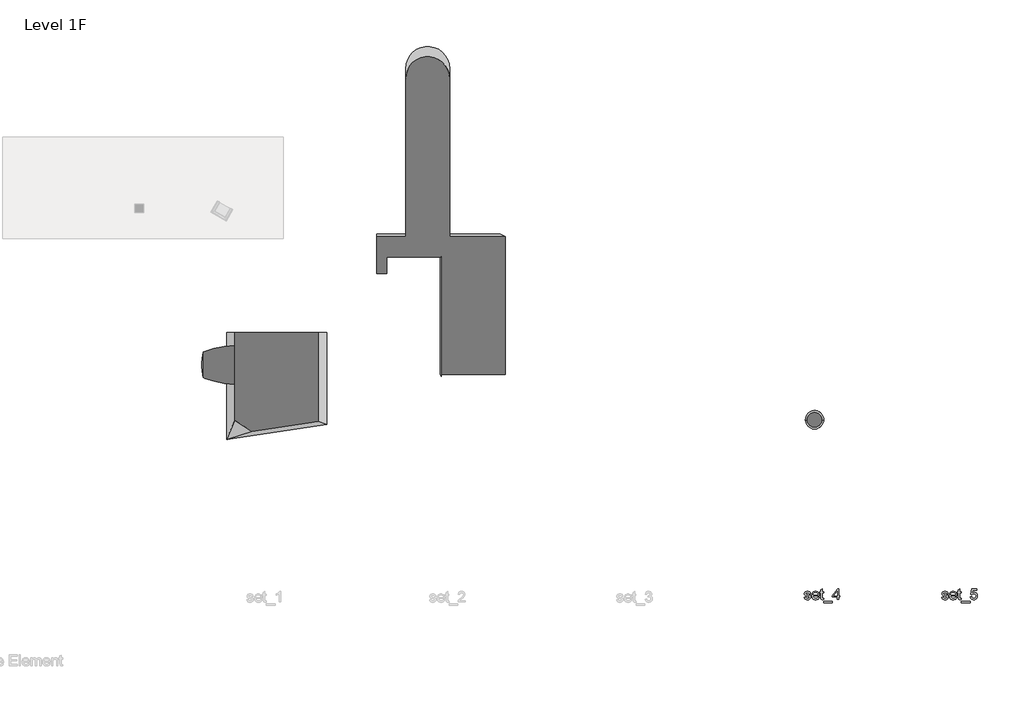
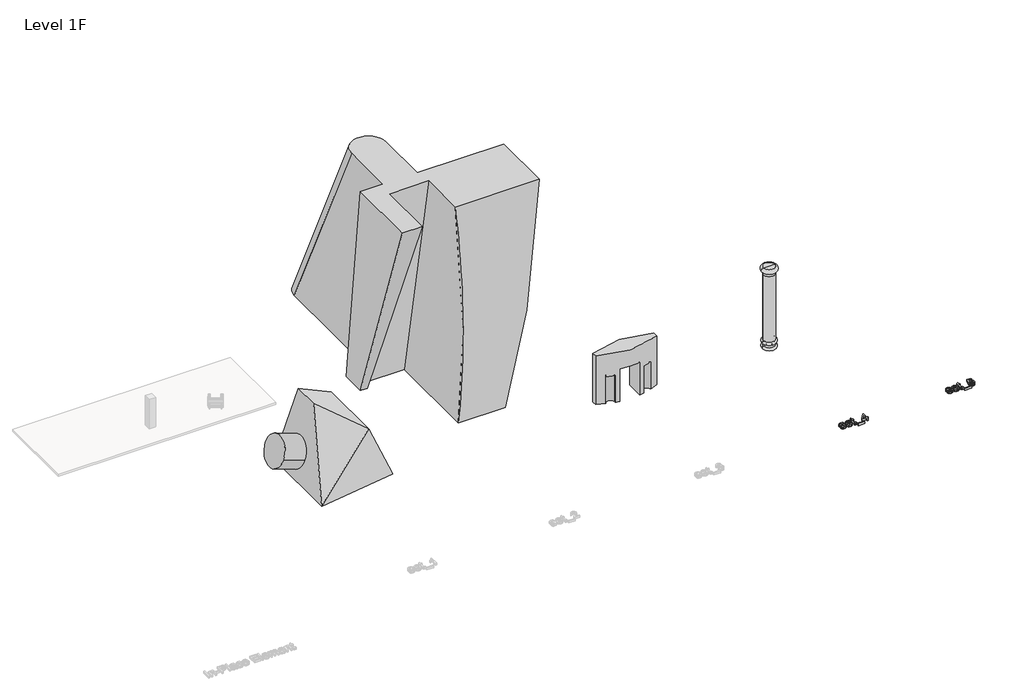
# One storey, part 2 of 2: 6 proxies.
"""IFC4 building model written with IfcOpenShell, lengths in millimetres."""

from ifc_helpers import new_model, si_unit, point, frame, origin, origin_2d, place, context, project, spatial, polyline, circle_curve, ellipse_curve, trimmed, segment, composite_curve, outline, extrude, faceted_brep, element, save
from ifc_brep_helpers import plane_surface, cylinder_surface, revolved_surface, extruded_surface, spline_curve, spline_surface, advanced_brep

model = new_model("IFC4")

# Units and contexts
model_context = context("Model", 3, world=origin())
ifc_project = project(units=[si_unit("LENGTHUNIT", "METRE", prefix="MILLI")], contexts=[model_context])

# Site, building, storey
site = spatial("IfcSite", under=ifc_project)
building = spatial("IfcBuilding", under=site)
storey = spatial("IfcBuildingStorey", under=building, Name="Level 1F", Elevation=100.0)

# Proxies
placement = place(None, origin())
element("IfcBuildingElementProxy", 1, Name="mass_set_2_pushpull : mass_set_2_pushpull", ObjectType="mass_set_2_pushpull : mass_set_2_pushpull", at=placement, inside=storey, context=model_context, shape_type="AdvancedBrep", body=[
    advanced_brep(
    [(12843.2101722, -14183.4497816, 100.0), (13313.1126887, -14183.4497816, 100.0), (14226.3350632, -19295.4431474, 14923.0492448), (12843.2101722, -19295.4431474, 14923.0492448), (13313.1126887, -13559.3715019, 100.0), (14226.3350632, -15283.4497816, 14923.0492448), (16303.091989, -13559.3715019, 100.0), (17026.3350632, -15283.4497816, 14923.0492448), (16303.091989, -20129.4660723, 100.0), (17026.3350632, -18498.151914, 14923.0492448), (19598.154389, -20129.4660723, 100.0), (22935.0564238, -18498.151914, 14923.0492448), (19598.154389, -12459.3715019, 100.0), (22935.0564238, -14183.4497816, 14923.0492448), (16826.3350632, -12459.3715019, 100.0), (16826.3350632, -14183.4497816, 14923.0492448), (16826.3350632, -3398.8954168, 100.0), (16826.3350632, -10353.3372491, 14923.0492448), (14426.3350632, -3398.8954168, 100.0), (14426.3350632, -10353.3372491, 14923.0492448), (14426.3350632, -12459.3715019, 100.0), (14426.3350632, -14183.4497816, 14923.0492448), (12843.2101722, -12459.3715019, 100.0), (12843.2101722, -14183.4497816, 14923.0492448)],
    [
        (0, 1),
        (1, 2),
        (2, 3),
        (3, 0),
        (1, 4),
        (4, 5),
        (5, 2),
        (4, 6),
        (6, 7),
        (7, 5),
        (6, 8),
        (8, 9, spline_curve(3, [(16303.091989, -20129.4660723, 100.0), (16412.500187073, -20332.67960459, 2342.348618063), (16521.751325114, -20332.67960459, 4581.47824989), (16762.905437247, -19883.473012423, 9523.99261019), (16894.735323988, -19339.701626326, 12225.879393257), (17026.3350632, -18498.151914, 14923.0492448)], [4, 2, 4], [0.0, 0.4523832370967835, 1.0])),
        (9, 7),
        (8, 10),
        (10, 11, spline_curve(3, [(19598.154389, -20129.4660723, 100.0), (20102.942408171, -20332.67960459, 2342.348618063), (20607.005782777, -20332.67960459, 4581.47824989), (21719.643672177, -19883.473012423, 9523.99261019), (22327.880975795, -19339.701626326, 12225.879393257), (22935.0564238, -18498.151914, 14923.0492448)], [4, 2, 4], [0.0, 0.4523832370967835, 1.0])),
        (11, 9),
        (10, 12),
        (12, 13),
        (13, 11),
        (12, 14),
        (14, 15),
        (15, 13),
        (14, 16),
        (16, 17),
        (17, 15),
        (16, 18, circle_curve(frame((15626.3350632, -3398.8954168, 100.0), z_axis=(0.0, 0.0, 1.0), x_axis=(-1.0, 0.0, 0.0)), 1200.0)),
        (18, 19),
        (19, 17, circle_curve(frame((15626.3350632, -10353.3372491, 14923.0492448), z_axis=(0.0, 0.0, -1.0), x_axis=(1.0, 0.0, 0.0)), 1200.0)),
        (18, 20),
        (20, 21),
        (21, 19),
        (20, 22),
        (22, 23),
        (23, 21),
        (22, 0),
        (3, 23),
    ],
    [
        plane_surface(frame((13078.1614305, -14183.4497816, 100.0), z_axis=(0.0, -0.9453612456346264, -0.3260247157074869), x_axis=(1.0, 0.0, 0.0))),
        plane_surface(frame((13313.1126887, -13871.4106417, 100.0), z_axis=(0.9981075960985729, 0.0, -0.06149167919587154), x_axis=(0.0, 1.0, 0.0))),
        plane_surface(frame((14808.1023389, -13559.3715019, 100.0), z_axis=(0.0, -0.9933037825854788, -0.11553179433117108), x_axis=(1.0, 0.0, 0.0))),
        plane_surface(frame((16303.091989, -16844.4187871, 100.0), z_axis=(-0.9988118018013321, 0.0, 0.04873381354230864), x_axis=(0.0, -1.0, 0.0))),
        spline_surface(3, 3, [[(16303.091989, -20129.4660723, 100.0), (16412.500187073, -20332.679604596, 2342.34861806), (16521.751325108, -20332.679604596, 4581.478249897), (16762.905437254, -19883.473012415, 9523.992610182), (16894.73532399, -19339.701626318, 12225.879393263), (17026.3350632, -18498.151914, 14923.0492448)], [(17401.446122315, -20129.4660723, 100.0), (17642.647594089, -20332.679604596, 2342.34861806), (17883.502811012, -20332.679604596, 4581.478249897), (18415.151515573, -19883.473012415, 9523.992610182), (18705.783874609, -19339.701626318, 12225.879393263), (18995.908850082, -18498.151914, 14923.0492448)], [(18499.800255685, -20129.4660723, 100.0), (18872.79500116, -20332.679604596, 2342.34861806), (19245.254296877, -20332.679604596, 4581.478249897), (20067.397593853, -19883.473012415, 9523.992610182), (20516.832425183, -19339.701626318, 12225.879393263), (20965.482636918, -18498.151914, 14923.0492448)], [(19598.154389, -20129.4660723, 100.0), (20102.942408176, -20332.679604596, 2342.34861806), (20607.005782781, -20332.679604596, 4581.478249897), (21719.643672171, -19883.473012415, 9523.992610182), (22327.880975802, -19339.701626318, 12225.879393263), (22935.0564238, -18498.151914, 14923.0492448)]], [4, 4], [4, 2, 4], [0.0, 1.0], [0.0, 0.4523832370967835, 1.0]),
        plane_surface(frame((19598.154389, -16294.4187871, 100.0), z_axis=(0.9755855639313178, 0.0, -0.2196196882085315), x_axis=(0.0, 1.0, 0.0))),
        plane_surface(frame((18212.2447261, -12459.3715019, 100.0), z_axis=(0.0, 0.993303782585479, 0.11553179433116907), x_axis=(-1.0, 0.0, 0.0))),
        plane_surface(frame((16826.3350632, -7929.1334594, 100.0), z_axis=(1.0, 0.0, 0.0), x_axis=(0.0, 1.0, 0.0))),
        extruded_surface(trimmed(circle_curve(frame((15626.3350632, -3398.8954168, 100.0), z_axis=(0.0, 0.0, 1.0), x_axis=(-1.0, 0.0, 0.0)), 1200.0), [point((16826.3350632, -3398.8954168, 100.0))], [point((14426.3350632, -3398.8954168, 100.0))], True, "CARTESIAN"), (0.0, -6954.441832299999, 14823.0492448), 16373.364043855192),
        plane_surface(frame((14426.3350632, -7929.1334594, 100.0), z_axis=(-1.0, 0.0, 0.0), x_axis=(0.0, -1.0, 0.0))),
        plane_surface(frame((13634.7726177, -12459.3715019, 100.0), z_axis=(0.0, 0.9933037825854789, 0.11553179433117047), x_axis=(-1.0, 0.0, 0.0))),
        plane_surface(frame((12843.2101722, -13321.4106417, 100.0), z_axis=(-1.0, 0.0, 0.0), x_axis=(0.0, -1.0, 0.0))),
        plane_surface(frame((16380.6011415, -15299.5469426, 14923.0492448), z_axis=(0.0, 0.0, 1.0), x_axis=(1.0, 0.0, 0.0))),
        plane_surface(frame((15551.7065609, -12698.3209627, 100.0), z_axis=(0.0, 0.0, -1.0), x_axis=(0.0, 1.0, 0.0))),
    ],
    [
        (0, [[1, 2, 3, 4]]),
        (1, [[5, 6, 7, -2]]),
        (2, [[8, 9, 10, -6]]),
        (3, [[11, 12, 13, -9]]),
        (4, [[14, 15, 16, -12]]),
        (5, [[17, 18, 19, -15]]),
        (6, [[20, 21, 22, -18]]),
        (7, [[23, 24, 25, -21]]),
        (8, [[26, 27, 28, -24]]),
        (9, [[29, 30, 31, -27]]),
        (10, [[32, 33, 34, -30]]),
        (11, [[35, -4, 36, -33]]),
        (12, [[-28, -31, -34, -36, -3, -7, -10, -13, -16, -19, -22, -25]]),
        (13, [[-35, -32, -29, -26, -23, -20, -17, -14, -11, -8, -5, -1]]),
    ],
),
])
element("IfcBuildingElementProxy", 2, Name="600mm Arial", ObjectType="600mm Arial", at=placement, inside=storey, context=model_context, shape_type="SweptSolid", body=[
    extrude(outline(polyline([(36190.4060898, -32291.1306753), (36264.2522437, -32281.8999061), (36268.7143831, -32298.7388484), (36275.8988783, -32313.4864446), (36285.8057293, -32326.1426946), (36298.434936, -32336.7075984), (36313.8225562, -32345.0369253), (36332.0046475, -32350.9864446), (36376.7522437, -32355.74606), (36420.9589744, -32351.3830792), (36438.1404648, -32345.9293532), (36452.0407052, -32338.2941369), (36470.4301283, -32319.3277907), (36476.559936, -32297.3325984), (36475.0184696, -32287.3626465), (36470.3940706, -32278.510483), (36451.8964744, -32264.1595215), (36424.2402244, -32254.7845215), (36375.8868591, -32243.1018292), (36308.4950321, -32223.6126465), (36264.684936, -32206.9720215), (36236.5419071, -32188.8169734), (36216.1512821, -32164.7845215), (36203.7654648, -32136.4071177), (36199.6368591, -32105.2172138), (36202.9541668, -32076.605435), (36212.9060898, -32050.1931753), (36228.591186, -32027.026108), (36249.1080129, -32008.1499061), (36269.4986379, -31996.2688965), (36296.0551283, -31986.2989446), (36326.7582533, -31979.5381273), (36359.5887821, -31977.2845215), (36407.653686, -31980.9083196), (36449.4445514, -31991.7797138), (36483.0503206, -32008.8350023), (36506.559936, -32031.010483), (36522.1368591, -32059.9467811), (36531.9445514, -32097.2845215), (36458.0983975, -32106.5152907), (36448.7774841, -32083.276108), (36430.3339744, -32065.7700984), (36402.5875802, -32054.7905311), (36365.3580129, -32051.1306753), (36322.9541668, -32054.6282715), (36294.684936, -32065.12106), (36278.7834937, -32080.2652907), (36273.4830129, -32097.7172138), (36275.6825321, -32109.0753869), (36282.2810898, -32119.2075984), (36293.5671475, -32128.2580792), (36309.8291668, -32135.5056753), (36373.434936, -32151.2268292), (36481.8243591, -32185.9864446), (36510.4541668, -32202.6090407), (36532.1608975, -32225.3614446), (36545.8447918, -32254.3157715), (36550.4060898, -32289.5441369), (36545.0515225, -32325.9624061), (36528.9878206, -32360.2172138), (36502.8279648, -32389.6222619), (36467.184936, -32411.4912523), (36424.1320514, -32425.0669734), (36375.7426283, -32429.5922138), (36335.9980369, -32427.4107234), (36301.2834937, -32420.8662523), (36271.5989985, -32409.9588003), (36246.9445514, -32394.6883677), (36226.8063302, -32375.1270696), (36210.6705129, -32351.3470215), (36198.5370994, -32323.3482234), (36190.4060898, -32291.1306753)])), frame((0.0, 0.0, 100.0), z_axis=(0.0, 0.0, 1.0), x_axis=(1.0, 0.0, 0.0)), (0.0, 0.0, 1.0), 150.0),
    extrude(outline(polyline([(36937.2330129, -32291.1306753), (37009.6368591, -32300.3614446), (36998.535597, -32329.3608436), (36983.5491187, -32354.916733), (36964.677424, -32377.0291128), (36941.9205129, -32395.697983), (36915.5127605, -32410.526709), (36885.6885418, -32421.1186561), (36852.4478567, -32427.4738244), (36815.7907052, -32429.5922138), (36769.9703927, -32425.9368653), (36729.1440706, -32414.9708196), (36693.3117389, -32396.6940768), (36662.4733975, -32371.1066369), (36637.6747196, -32338.9206393), (36619.9613783, -32300.8482234), (36609.3333735, -32256.8893893), (36605.7907052, -32207.0441369), (36609.3694312, -32155.5086802), (36620.1056091, -32110.0850023), (36637.9992389, -32070.7731032), (36663.0503206, -32037.572983), (36693.8075321, -32011.1967811), (36728.8195514, -31992.3566369), (36768.0863783, -31981.0525503), (36811.6080129, -31977.2845215), (36853.7279047, -31981.0435359), (36891.8183494, -31992.3205792), (36925.879347, -32011.1156513), (36955.9108975, -32037.4287523), (36980.4256211, -32070.5567571), (36997.9361379, -32109.7965407), (37008.442448, -32155.1481032), (37011.9445514, -32206.6114446), (37011.5118591, -32226.5152907), (36679.6368591, -32226.5152907), (36683.9142028, -32255.9834398), (36692.419311, -32281.791733), (36705.1521836, -32303.9401705), (36722.1128206, -32322.4287523), (36742.363722, -32337.0050744), (36764.9673879, -32347.416733), (36789.9238182, -32353.6637282), (36817.2330129, -32355.74606), (36856.5358975, -32351.8878869), (36889.6368591, -32340.3133677), (36916.5358975, -32320.3013484), (36937.2330129, -32291.1306753)]), holes=[polyline([(36679.6368591, -32152.6691369), (36938.0983975, -32152.6691369), (36928.1104168, -32113.6547138), (36919.5196716, -32098.3121657), (36908.5310898, -32085.74606), (36888.3928687, -32070.6018292), (36865.4782052, -32059.7845215), (36839.7870994, -32053.2941369), (36811.3195514, -32051.1306753), (36785.3535057, -32052.8569374), (36761.5419071, -32058.0357234), (36739.8847557, -32066.6670335), (36720.3820514, -32078.7508677), (36704.0163663, -32093.7283316), (36691.7702725, -32111.0405311), (36683.6437701, -32130.6874662), (36679.6368591, -32152.6691369)])]), frame((0.0, 0.0, 100.0), z_axis=(0.0, 0.0, 1.0), x_axis=(1.0, 0.0, 0.0)), (0.0, 0.0, 1.0), 150.0),
    extrude(outline(polyline([(37242.7137821, -32358.7749061), (37251.9445514, -32422.5249061), (37196.7041668, -32429.5922138), (37161.2594552, -32426.52731), (37134.8291668, -32417.3325984), (37116.1512821, -32403.1619253), (37103.9637821, -32385.1691369), (37097.2570514, -32354.2676946), (37095.0214744, -32301.37106), (37095.0214744, -32060.3614446), (37039.6368591, -32060.3614446), (37039.6368591, -31986.5152907), (37095.0214744, -31986.5152907), (37095.0214744, -31881.0825984), (37168.8676283, -31837.6691369), (37168.8676283, -31986.5152907), (37242.7137821, -31986.5152907), (37242.7137821, -32060.3614446), (37168.8676283, -32060.3614446), (37168.8676283, -32299.2075984), (37172.7618591, -32337.2845215), (37185.3820514, -32350.7700984), (37196.0370994, -32354.5020696), (37210.5503206, -32355.74606), (37242.7137821, -32358.7749061)])), frame((0.0, 0.0, 100.0), z_axis=(0.0, 0.0, 1.0), x_axis=(1.0, 0.0, 0.0)), (0.0, 0.0, 1.0), 150.0),
    extrude(outline(polyline([(37251.9445514, -32586.5152907), (37251.9445514, -32512.6691369), (37731.9445514, -32512.6691369), (37731.9445514, -32586.5152907), (37251.9445514, -32586.5152907)])), frame((0.0, 0.0, 100.0), z_axis=(0.0, 0.0, 1.0), x_axis=(1.0, 0.0, 0.0)), (0.0, 0.0, 1.0), 150.0),
    extrude(outline(polyline([(37990.4060898, -32420.3614446), (37990.4060898, -32281.8999061), (37722.7137821, -32281.8999061), (37722.7137821, -32208.0537523), (38008.8676283, -31838.822983), (38064.2522437, -31838.822983), (38064.2522437, -32208.0537523), (38138.0983975, -32208.0537523), (38138.0983975, -32281.8999061), (38064.2522437, -32281.8999061), (38064.2522437, -32420.3614446), (37990.4060898, -32420.3614446)]), holes=[polyline([(37990.4060898, -32208.0537523), (37990.4060898, -31979.8806753), (37813.5791668, -32208.0537523), (37990.4060898, -32208.0537523)])]), frame((0.0, 0.0, 100.0), z_axis=(0.0, 0.0, 1.0), x_axis=(1.0, 0.0, 0.0)), (0.0, 0.0, 1.0), 150.0),
])
element("IfcBuildingElementProxy", 3, Name="600mm Arial", ObjectType="600mm Arial", at=placement, inside=storey, context=model_context, shape_type="SweptSolid", body=[
    extrude(outline(polyline([(43701.1603942, -32291.1306753), (43775.006548, -32281.8999061), (43779.4686875, -32298.7388484), (43786.6531827, -32313.4864446), (43796.5600336, -32326.1426946), (43809.1892403, -32336.7075984), (43824.5768605, -32345.0369253), (43842.7589519, -32350.9864446), (43887.506548, -32355.74606), (43931.7132788, -32351.3830792), (43948.8947692, -32345.9293532), (43962.7950096, -32338.2941369), (43981.1844327, -32319.3277907), (43987.3142403, -32297.3325984), (43985.772774, -32287.3626465), (43981.148375, -32278.510483), (43962.6507788, -32264.1595215), (43934.9945288, -32254.7845215), (43886.6411634, -32243.1018292), (43819.2493365, -32223.6126465), (43775.4392403, -32206.9720215), (43747.2962115, -32188.8169734), (43726.9055865, -32164.7845215), (43714.5197692, -32136.4071177), (43710.3911634, -32105.2172138), (43713.7084711, -32076.605435), (43723.6603942, -32050.1931753), (43739.3454903, -32027.026108), (43759.8623173, -32008.1499061), (43780.2529423, -31996.2688965), (43806.8094327, -31986.2989446), (43837.5125577, -31979.5381273), (43870.3430865, -31977.2845215), (43918.4079903, -31980.9083196), (43960.1988557, -31991.7797138), (43993.804625, -32008.8350023), (44017.3142403, -32031.010483), (44032.8911634, -32059.9467811), (44042.6988557, -32097.2845215), (43968.8527019, -32106.5152907), (43959.5317884, -32083.276108), (43941.0882788, -32065.7700984), (43913.3418846, -32054.7905311), (43876.1123173, -32051.1306753), (43833.7084711, -32054.6282715), (43805.4392403, -32065.12106), (43789.537798, -32080.2652907), (43784.2373173, -32097.7172138), (43786.4368365, -32109.0753869), (43793.0353942, -32119.2075984), (43804.3214519, -32128.2580792), (43820.5834711, -32135.5056753), (43884.1892403, -32151.2268292), (43992.5786634, -32185.9864446), (44021.2084711, -32202.6090407), (44042.9152019, -32225.3614446), (44056.5990961, -32254.3157715), (44061.1603942, -32289.5441369), (44055.8058269, -32325.9624061), (44039.742125, -32360.2172138), (44013.5822692, -32389.6222619), (43977.9392403, -32411.4912523), (43934.8863557, -32425.0669734), (43886.4969327, -32429.5922138), (43846.7523413, -32427.4107234), (43812.037798, -32420.8662523), (43782.3533028, -32409.9588003), (43757.6988557, -32394.6883677), (43737.5606346, -32375.1270696), (43721.4248173, -32351.3470215), (43709.2914038, -32323.3482234), (43701.1603942, -32291.1306753)])), frame((0.0, 0.0, 100.0), z_axis=(0.0, 0.0, 1.0), x_axis=(1.0, 0.0, 0.0)), (0.0, 0.0, 1.0), 150.0),
    extrude(outline(polyline([(44447.9873173, -32291.1306753), (44520.3911634, -32300.3614446), (44509.2899014, -32329.3608436), (44494.303423, -32354.916733), (44475.4317283, -32377.0291128), (44452.6748173, -32395.697983), (44426.2670649, -32410.526709), (44396.4428461, -32421.1186561), (44363.202161, -32427.4738244), (44326.5450096, -32429.5922138), (44280.7246971, -32425.9368653), (44239.898375, -32414.9708196), (44204.0660432, -32396.6940768), (44173.2277019, -32371.1066369), (44148.429024, -32338.9206393), (44130.7156827, -32300.8482234), (44120.0876778, -32256.8893893), (44116.5450096, -32207.0441369), (44120.1237355, -32155.5086802), (44130.8599134, -32110.0850023), (44148.7535432, -32070.7731032), (44173.804625, -32037.572983), (44204.5618365, -32011.1967811), (44239.5738557, -31992.3566369), (44278.8406827, -31981.0525503), (44322.3623173, -31977.2845215), (44364.4822091, -31981.0435359), (44402.5726538, -31992.3205792), (44436.6336514, -32011.1156513), (44466.6652019, -32037.4287523), (44491.1799254, -32070.5567571), (44508.6904423, -32109.7965407), (44519.1967524, -32155.1481032), (44522.6988557, -32206.6114446), (44522.2661634, -32226.5152907), (44190.3911634, -32226.5152907), (44194.6685072, -32255.9834398), (44203.1736153, -32281.791733), (44215.9064879, -32303.9401705), (44232.867125, -32322.4287523), (44253.1180264, -32337.0050744), (44275.7216923, -32347.416733), (44300.6781226, -32353.6637282), (44327.9873173, -32355.74606), (44367.2902019, -32351.8878869), (44400.3911634, -32340.3133677), (44427.2902019, -32320.3013484), (44447.9873173, -32291.1306753)]), holes=[polyline([(44190.3911634, -32152.6691369), (44448.8527019, -32152.6691369), (44438.8647211, -32113.6547138), (44430.2739759, -32098.3121657), (44419.2853942, -32085.74606), (44399.147173, -32070.6018292), (44376.2325096, -32059.7845215), (44350.5414038, -32053.2941369), (44322.0738557, -32051.1306753), (44296.1078101, -32052.8569374), (44272.2962115, -32058.0357234), (44250.6390601, -32066.6670335), (44231.1363557, -32078.7508677), (44214.7706706, -32093.7283316), (44202.5245769, -32111.0405311), (44194.3980745, -32130.6874662), (44190.3911634, -32152.6691369)])]), frame((0.0, 0.0, 100.0), z_axis=(0.0, 0.0, 1.0), x_axis=(1.0, 0.0, 0.0)), (0.0, 0.0, 1.0), 150.0),
    extrude(outline(polyline([(44753.4680865, -32358.7749061), (44762.6988557, -32422.5249061), (44707.4584711, -32429.5922138), (44672.0137596, -32426.52731), (44645.5834711, -32417.3325984), (44626.9055865, -32403.1619253), (44614.7180865, -32385.1691369), (44608.0113557, -32354.2676946), (44605.7757788, -32301.37106), (44605.7757788, -32060.3614446), (44550.3911634, -32060.3614446), (44550.3911634, -31986.5152907), (44605.7757788, -31986.5152907), (44605.7757788, -31881.0825984), (44679.6219327, -31837.6691369), (44679.6219327, -31986.5152907), (44753.4680865, -31986.5152907), (44753.4680865, -32060.3614446), (44679.6219327, -32060.3614446), (44679.6219327, -32299.2075984), (44683.5161634, -32337.2845215), (44696.1363557, -32350.7700984), (44706.7914038, -32354.5020696), (44721.304625, -32355.74606), (44753.4680865, -32358.7749061)])), frame((0.0, 0.0, 100.0), z_axis=(0.0, 0.0, 1.0), x_axis=(1.0, 0.0, 0.0)), (0.0, 0.0, 1.0), 150.0),
    extrude(outline(polyline([(44762.6988557, -32586.5152907), (44762.6988557, -32512.6691369), (45242.6988557, -32512.6691369), (45242.6988557, -32586.5152907), (44762.6988557, -32586.5152907)])), frame((0.0, 0.0, 100.0), z_axis=(0.0, 0.0, 1.0), x_axis=(1.0, 0.0, 0.0)), (0.0, 0.0, 1.0), 150.0),
    extrude(outline(polyline([(45261.1603942, -32263.4383677), (45335.006548, -32254.2075984), (45340.523375, -32277.9470816), (45348.5642403, -32298.5405311), (45359.1291442, -32315.987947), (45372.2180865, -32330.2893292), (45387.804024, -32341.4266489), (45405.8599134, -32349.3818773), (45426.3857548, -32354.1550143), (45449.381548, -32355.74606), (45477.506548, -32353.5330191), (45502.3142403, -32346.8938965), (45523.804625, -32335.8286922), (45541.9777019, -32320.3374061), (45556.4278221, -32301.1862643), (45566.7493365, -32279.1414927), (45572.9422452, -32254.2030912), (45575.006548, -32226.37106), (45573.0729543, -32200.0669734), (45567.272173, -32176.68356), (45557.6042043, -32156.2208196), (45544.069048, -32138.6787523), (45526.6216322, -32124.6072378), (45505.2168846, -32114.5561561), (45479.8548052, -32108.5255071), (45450.5353942, -32106.5152907), (45414.7120769, -32109.7244253), (45385.7036634, -32119.3518292), (45362.5365961, -32134.0994253), (45344.2373173, -32152.6691369), (45270.3911634, -32143.4383677), (45335.006548, -31838.822983), (45621.1603942, -31838.822983), (45621.1603942, -31912.6691369), (45394.7180865, -31912.6691369), (45363.131548, -32075.3614446), (45389.1922452, -32056.68356), (45415.8839519, -32043.3422138), (45443.2066682, -32035.3374061), (45471.1603942, -32032.6691369), (45507.1234351, -32035.9774302), (45540.1567884, -32045.90231), (45570.2604543, -32062.4437763), (45597.4344327, -32085.6018292), (45619.9299254, -32113.9612042), (45635.9981346, -32146.1066369), (45645.6390601, -32182.0381273), (45648.8527019, -32221.7556753), (45645.9590721, -32260.0128869), (45637.2781827, -32295.6018292), (45622.8100336, -32328.5225023), (45602.554625, -32358.7749061), (45571.8695288, -32389.7574782), (45536.0642403, -32411.8878869), (45495.1387596, -32425.1661321), (45449.0930865, -32429.5922138), (45410.9846129, -32426.7481633), (45376.5630384, -32418.2160119), (45345.8283629, -32403.9957595), (45318.7805865, -32384.0874061), (45296.2760793, -32359.4825383), (45279.1712115, -32331.1727427), (45267.4659831, -32299.1580191), (45261.1603942, -32263.4383677)])), frame((0.0, 0.0, 100.0), z_axis=(0.0, 0.0, 1.0), x_axis=(1.0, 0.0, 0.0)), (0.0, 0.0, 1.0), 150.0),
])
element("IfcBuildingElementProxy", 4, Name="mass_set_1_circle : mass_set_1_circle", ObjectType="mass_set_1_circle : mass_set_1_circle", at=placement, inside=storey, context=model_context, shape_type="SolidModel", body=[
    faceted_brep([(10120.6534955, -17837.6145481, 100.0), (4642.8056374, -17837.6145481, 100.0), (6371.4491837, -17837.6145481, 4734.0), (8693.425796, -17837.6145481, 3654.2808032), (4642.8056374, -23659.2588578, 100.0), (6371.4491837, -19683.2977151, 4734.0), (10120.6534955, -22857.3313514, 100.0), (8693.425796, -22362.4404012, 3654.2808032)], [[[0, 1, 2, 3]], [[1, 4, 5, 2]], [[4, 6, 7]], [[6, 0, 3, 7]], [[5, 7, 3, 2]], [[0, 6, 4, 1]], [[7, 5, 4]]]),
    extrude(outline(composite_curve([segment(trimmed(circle_curve(origin_2d(), 1100.0), [point((-1100.0, 0.0))], [point((1100.0, 0.0))], False, "CARTESIAN"), True, "CONTINUOUS"), segment(trimmed(circle_curve(origin_2d(), 1100.0), [point((1100.0, 0.0))], [point((-1100.0, 0.0))], False, "CARTESIAN"), True, "CONTINUOUS")], self_intersect=False)), frame((5177.1775411, -19598.151914, 1532.4985662), z_axis=(-0.9369331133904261, 0.0, 0.34950871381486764), x_axis=(0.0, -1.0, 0.0)), (0.0, 0.0, 1.0), 1609.0013198),
])
element("IfcBuildingElementProxy", 5, Name="mass_set_3_void : mass_set_3_void", ObjectType="mass_set_3_void : mass_set_3_void", at=placement, inside=storey, context=model_context, shape_type="AdvancedBrep", body=[
    advanced_brep(
    [(24517.0342068, -22297.550542, 100.0), (24517.0342068, -22627.9743069, 100.0), (24517.0342068, -22627.9743069, 3700.0), (24517.0342068, -22297.550542, 3700.0), (25087.0187624, -22860.1897795, 100.0), (25087.0187624, -22860.1897795, 2100.0), (25665.7696492, -23017.4265787, 2100.0), (25665.7696492, -23017.4265787, 100.0), (25967.0342068, -23070.5915048, 100.0), (25967.0342068, -23070.5915048, 2500.0), (27367.0342068, -23075.6525647, 2500.0), (27367.0342068, -23075.6525647, 100.0), (27670.0563525, -23024.3898228, 100.0), (27670.0563525, -23024.3898228, 2100.0), (28250.142535, -22871.0935183, 2100.0), (28250.142535, -22871.0935183, 100.0), (28817.0342068, -22645.0225407, 100.0), (28817.0342068, -22645.0225407, 3700.0), (28817.0342068, -22297.550542, 100.0), (28817.0342068, -22297.550542, 3700.0), (27367.0342068, -21860.9374614, 100.0), (27367.0342068, -21860.9374614, 2500.0), (25967.0342068, -21860.9374614, 2500.0), (25967.0342068, -21860.9374614, 100.0), (25674.0345917, -22947.4933516, 100.0), (27660.0338218, -22947.4933516, 100.0), (25674.0345917, -22947.4933516, 2100.0), (27660.0338218, -22947.4933516, 2100.0)],
    [
        (0, 1),
        (1, 2),
        (2, 3),
        (3, 0),
        (1, 4, circle_curve(frame((26684.9312877, -18122.3975129, 100.0), z_axis=(0.0, 0.0, 1.0), x_axis=(0.9011153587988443, -0.4335794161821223, 0.0)), 5000.0)),
        (4, 5),
        (5, 6, circle_curve(frame((26684.9312877, -18122.3975129, 2100.0), z_axis=(0.0, 0.0, 1.0), x_axis=(0.9011153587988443, -0.4335794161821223, 0.0)), 5000.0)),
        (6, 7),
        (7, 8, circle_curve(frame((26684.9312877, -18122.3975129, 100.0), z_axis=(0.0, 0.0, 1.0), x_axis=(0.9011153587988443, -0.4335794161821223, 0.0)), 5000.0)),
        (8, 9),
        (9, 10, circle_curve(frame((26684.9312877, -18122.3975129, 2500.0), z_axis=(0.0, 0.0, 1.0), x_axis=(0.9011153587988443, -0.4335794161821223, 0.0)), 5000.0)),
        (10, 11),
        (11, 12, circle_curve(frame((26684.9312877, -18122.3975129, 100.0), z_axis=(0.0, 0.0, 1.0), x_axis=(0.9011153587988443, -0.4335794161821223, 0.0)), 5000.0)),
        (12, 13),
        (13, 14, circle_curve(frame((26684.9312877, -18122.3975129, 2100.0), z_axis=(0.0, 0.0, 1.0), x_axis=(0.9011153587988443, -0.4335794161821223, 0.0)), 5000.0)),
        (14, 15),
        (15, 16, circle_curve(frame((26684.9312877, -18122.3975129, 100.0), z_axis=(0.0, 0.0, 1.0), x_axis=(0.9011153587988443, -0.4335794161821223, 0.0)), 5000.0)),
        (16, 17),
        (17, 2, circle_curve(frame((26684.9312877, -18122.3975129, 3700.0), z_axis=(0.0, 0.0, -1.0), x_axis=(0.9011153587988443, -0.4335794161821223, 0.0)), 5000.0)),
        (16, 18),
        (18, 19),
        (19, 17),
        (3, 19, circle_curve(frame((26667.0342068, -26811.6949792, 3700.0), z_axis=(0.0, 0.0, -1.0), x_axis=(-0.9028288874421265, 0.430000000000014, 0.0)), 5000.0)),
        (18, 20, circle_curve(frame((26667.0342068, -26811.6949792, 100.0), z_axis=(0.0, 0.0, 1.0), x_axis=(-0.9028288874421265, 0.430000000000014, 0.0)), 5000.0)),
        (20, 21),
        (21, 22, circle_curve(frame((26667.0342068, -26811.6949792, 2500.0), z_axis=(0.0, 0.0, 1.0), x_axis=(-0.9028288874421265, 0.430000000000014, 0.0)), 5000.0)),
        (22, 23),
        (23, 0, circle_curve(frame((26667.0342068, -26811.6949792, 100.0), z_axis=(0.0, 0.0, 1.0), x_axis=(-0.9028288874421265, 0.430000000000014, 0.0)), 5000.0)),
        (23, 8),
        (7, 24, circle_curve(frame((25374.0345917, -22947.4933516, 100.0), z_axis=(0.0, 0.0, 1.0), x_axis=(0.0, -1.0, 0.0)), 300.0)),
        (24, 4, circle_curve(frame((25374.0345917, -22947.4933516, 100.0), z_axis=(0.0, 0.0, 1.0), x_axis=(0.0, 1.0, 0.0)), 300.0)),
        (15, 25, circle_curve(frame((27960.0338218, -22947.4933516, 100.0), z_axis=(0.0, 0.0, 1.0), x_axis=(0.0, 1.0, 0.0)), 300.0)),
        (25, 12, circle_curve(frame((27960.0338218, -22947.4933516, 100.0), z_axis=(0.0, 0.0, 1.0), x_axis=(0.0, -1.0, 0.0)), 300.0)),
        (11, 20),
        (22, 9),
        (10, 21),
        (24, 26),
        (26, 5, circle_curve(frame((25374.0345917, -22947.4933516, 2100.0), z_axis=(0.0, 0.0, 1.0), x_axis=(0.0, 1.0, 0.0)), 300.0)),
        (6, 26, circle_curve(frame((25374.0345917, -22947.4933516, 2100.0), z_axis=(0.0, 0.0, 1.0), x_axis=(0.0, -1.0, 0.0)), 300.0)),
        (25, 27),
        (27, 13, circle_curve(frame((27960.0338218, -22947.4933516, 2100.0), z_axis=(0.0, 0.0, 1.0), x_axis=(0.0, -1.0, 0.0)), 300.0)),
        (14, 27, circle_curve(frame((27960.0338218, -22947.4933516, 2100.0), z_axis=(0.0, 0.0, 1.0), x_axis=(0.0, 1.0, 0.0)), 300.0)),
    ],
    [
        plane_surface(frame((24517.0342068, -22462.7624244, 100.0), z_axis=(-1.0, 0.0, 0.0), x_axis=(0.0, -1.0, 0.0))),
        cylinder_surface(frame((26684.9312877, -18122.3975129, 100.0), z_axis=(0.0, 0.0, 1.0), x_axis=(0.9011153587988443, -0.4335794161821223, 0.0)), 5000.0),
        plane_surface(frame((28817.0342068, -22471.2865414, 100.0), z_axis=(1.0, 0.0, 0.0), x_axis=(0.0, 1.0, 0.0))),
        cylinder_surface(frame((26667.0342068, -26811.6949792, 100.0), z_axis=(0.0, 0.0, 1.0), x_axis=(-0.9028288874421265, 0.430000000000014, 0.0)), 5000.0),
        plane_surface(frame((26667.0342068, -22467.0244829, 3700.0), z_axis=(0.0, 0.0, 1.0), x_axis=(-1.0, 0.0, 0.0))),
        plane_surface(frame((26667.0342068, -22467.0244829, 100.0), z_axis=(0.0, 0.0, -1.0), x_axis=(-1.0, 0.0, 0.0))),
        plane_surface(frame((25967.0342068, -22510.0181854, 100.0), z_axis=(1.0, 0.0, 0.0), x_axis=(0.0, -1.0, 0.0))),
        plane_surface(frame((27367.0342068, -22510.0181854, 100.0), z_axis=(-1.0, 0.0, 0.0), x_axis=(0.0, 1.0, 0.0))),
        plane_surface(frame((26667.0342068, -22510.0181854, 2500.0), z_axis=(0.0, 0.0, -1.0), x_axis=(0.0, 1.0, 0.0))),
        revolved_surface(polyline([(25374.0345917, -22647.4933516, 2100.0), (25374.0345917, -22647.4933516, 100.0)]), (25374.0345917, -22947.4933516, 100.0), (0.0, 0.0, 1.0)),
        revolved_surface(polyline([(25374.0345917, -23247.4933516, 2100.0), (25374.0345917, -23247.4933516, 100.0)]), (25374.0345917, -22947.4933516, 100.0), (0.0, 0.0, 1.0)),
        plane_surface(frame((25374.0345917, -22947.4933516, 2100.0), z_axis=(0.0, 0.0, -1.0), x_axis=(-1.0, 0.0, 0.0))),
        revolved_surface(polyline([(27960.0338218, -23247.4933516, 2100.0), (27960.0338218, -23247.4933516, 100.0)]), (27960.0338218, -22947.4933516, 100.0), (0.0, 0.0, 1.0)),
        revolved_surface(polyline([(27960.0338218, -22647.4933516, 2100.0), (27960.0338218, -22647.4933516, 100.0)]), (27960.0338218, -22947.4933516, 100.0), (0.0, 0.0, 1.0)),
        plane_surface(frame((27960.0338218, -22947.4933516, 2100.0), z_axis=(0.0, 0.0, -1.0), x_axis=(-1.0, 0.0, 0.0))),
    ],
    [
        (0, [[1, 2, 3, 4]]),
        (1, [[-2, 5, 6, 7, 8, 9, 10, 11, 12, 13, 14, 15, 16, 17, 18, 19]]),
        (2, [[-18, 20, 21, 22]]),
        (3, [[-4, 23, -21, 24, 25, 26, 27, 28]]),
        (4, [[-3, -19, -22, -23]]),
        (5, [[-1, -28, 29, -9, 30, 31, -5]]),
        (5, [[-20, -17, 32, 33, -13, 34, -24]]),
        (6, [[35, -10, -29, -27]]),
        (7, [[36, -25, -34, -12]]),
        (8, [[-35, -26, -36, -11]]),
        (9, [[37, 38, -6, -31]]),
        (10, [[-37, -30, -8, 39]]),
        (11, [[-38, -39, -7]]),
        (12, [[40, 41, -14, -33]]),
        (13, [[-40, -32, -16, 42]]),
        (14, [[-41, -42, -15]]),
    ],
),
])
element("IfcBuildingElementProxy", 6, Name="mass_set_4_column : mass_set_4_column", ObjectType="mass_set_4_column : mass_set_4_column", at=placement, inside=storey, context=model_context, shape_type="AdvancedBrep", body=[
    advanced_brep(
    [(37153.7460583, -22596.2748959, 5600.0), (36353.7460583, -22596.2748959, 5600.0), (36353.7460583, -22596.2748959, 5800.0), (37153.7460583, -22596.2748959, 5800.0), (37153.7460583, -22596.2748959, 700.0), (36353.7460583, -22596.2748959, 700.0), (37153.7460583, -22596.2748959, 500.0), (36353.7460583, -22596.2748959, 500.0), (37153.7460583, -22596.2748959, 300.0), (36353.7460583, -22596.2748959, 300.0), (37153.7460583, -22596.2748959, 100.0), (36353.7460583, -22596.2748959, 100.0), (36753.7460583, -22596.2748959, 100.0), (37153.7460583, -22596.2748959, 6100.0), (36353.7460583, -22596.2748959, 6100.0), (36753.7460583, -22596.2748959, 6100.0)],
    [
        (0, 1, circle_curve(frame((36753.7460583, -22596.2748959, 5600.0), z_axis=(0.0, 0.0, 1.0), x_axis=(-1.0, 0.0, 0.0)), 400.0)),
        (1, 2),
        (2, 3, circle_curve(frame((36753.7460583, -22596.2748959, 5800.0), z_axis=(0.0, 0.0, -1.0), x_axis=(-1.0, 0.0, 0.0)), 400.0)),
        (3, 0),
        (1, 0, circle_curve(frame((36753.7460583, -22596.2748959, 5600.0), z_axis=(0.0, 0.0, 1.0), x_axis=(-1.0, 0.0, 0.0)), 400.0)),
        (3, 2, circle_curve(frame((36753.7460583, -22596.2748959, 5800.0), z_axis=(0.0, 0.0, -1.0), x_axis=(-1.0, 0.0, 0.0)), 400.0)),
        (4, 5, circle_curve(frame((36753.7460583, -22596.2748959, 700.0), z_axis=(0.0, 0.0, 1.0), x_axis=(-1.0, 0.0, 0.0)), 400.0)),
        (5, 1, circle_curve(frame((65588.442119, -22596.2748959, 3150.0), z_axis=(0.0, 1.0, 0.0), x_axis=(1.0, 0.0, 0.0)), 29337.1769904)),
        (0, 4, circle_curve(frame((7919.0499975, -22596.2748959, 3150.0), z_axis=(0.0, 1.0, 0.0), x_axis=(-1.0, 0.0, 0.0)), 29337.1769904)),
        (5, 4, circle_curve(frame((36753.7460583, -22596.2748959, 700.0), z_axis=(0.0, 0.0, 1.0), x_axis=(-1.0, 0.0, 0.0)), 400.0)),
        (6, 7, circle_curve(frame((36753.7460583, -22596.2748959, 500.0), z_axis=(0.0, 0.0, 1.0), x_axis=(-1.0, 0.0, 0.0)), 400.0)),
        (7, 5, circle_curve(frame((36353.7460583, -22596.2748959, 600.0), z_axis=(0.0, 1.0, 0.0), x_axis=(1.0, 0.0, 0.0)), 100.0)),
        (4, 6, circle_curve(frame((37153.7460583, -22596.2748959, 600.0), z_axis=(0.0, 1.0, 0.0), x_axis=(-1.0, 0.0, 0.0)), 100.0)),
        (7, 6, circle_curve(frame((36753.7460583, -22596.2748959, 500.0), z_axis=(0.0, 0.0, 1.0), x_axis=(-1.0, 0.0, 0.0)), 400.0)),
        (8, 9, circle_curve(frame((36753.7460583, -22596.2748959, 300.0), z_axis=(0.0, 0.0, 1.0), x_axis=(-1.0, 0.0, 0.0)), 400.0)),
        (9, 7, circle_curve(frame((36353.7460583, -22596.2748959, 400.0), z_axis=(0.0, -1.0, 0.0), x_axis=(1.0, 0.0, 0.0)), 100.0)),
        (6, 8, circle_curve(frame((37153.7460583, -22596.2748959, 400.0), z_axis=(0.0, -1.0, 0.0), x_axis=(-1.0, 0.0, 0.0)), 100.0)),
        (9, 8, circle_curve(frame((36753.7460583, -22596.2748959, 300.0), z_axis=(0.0, 0.0, 1.0), x_axis=(-1.0, 0.0, 0.0)), 400.0)),
        (10, 11, circle_curve(frame((36753.7460583, -22596.2748959, 100.0), z_axis=(0.0, 0.0, 1.0), x_axis=(-1.0, 0.0, 0.0)), 400.0)),
        (11, 9, circle_curve(frame((36353.7460583, -22596.2748959, 200.0), z_axis=(0.0, 1.0, 0.0), x_axis=(1.0, 0.0, 0.0)), 100.0)),
        (8, 10, circle_curve(frame((37153.7460583, -22596.2748959, 200.0), z_axis=(0.0, 1.0, 0.0), x_axis=(-1.0, 0.0, 0.0)), 100.0)),
        (11, 10, circle_curve(frame((36753.7460583, -22596.2748959, 100.0), z_axis=(0.0, 0.0, 1.0), x_axis=(-1.0, 0.0, 0.0)), 400.0)),
        (12, 11),
        (10, 12),
        (13, 14, circle_curve(frame((36753.7460583, -22596.2748959, 6100.0), z_axis=(0.0, 0.0, 1.0), x_axis=(-1.0, 0.0, 0.0)), 400.0)),
        (14, 15),
        (15, 13),
        (14, 13, circle_curve(frame((36753.7460583, -22596.2748959, 6100.0), z_axis=(0.0, 0.0, 1.0), x_axis=(-1.0, 0.0, 0.0)), 400.0)),
        (2, 14, circle_curve(frame((36353.7460583, -22596.2748959, 5950.0), z_axis=(0.0, 1.0, 0.0), x_axis=(1.0, 0.0, 0.0)), 150.0)),
        (13, 3, circle_curve(frame((37153.7460583, -22596.2748959, 5950.0), z_axis=(0.0, 1.0, 0.0), x_axis=(-1.0, 0.0, 0.0)), 150.0)),
    ],
    [
        cylinder_surface(frame((36753.7460583, -22596.2748959, 9964.7688504), z_axis=(0.0, 0.0, -1.0), x_axis=(-1.0, 0.0, 0.0)), 400.0),
        revolved_surface(trimmed(ellipse_curve(frame((65588.442119, -22596.2748959, 3150.0), z_axis=(0.0, -1.0, 0.0), x_axis=(1.0, 0.0, 0.0)), 29337.1769904, 29337.1769904), [point((36353.7460583, -22596.2748959, 5600.0))], [point((36353.7460583, -22596.2748959, 700.0))], True, "CARTESIAN"), (36753.7460583, -22596.2748959, 9964.7688504), (0.0, 0.0, -1.0)),
        revolved_surface(trimmed(ellipse_curve(frame((36353.7460583, -22596.2748959, 600.0), z_axis=(0.0, -1.0, 0.0), x_axis=(1.0, 0.0, 0.0)), 100.0, 100.0), [point((36353.7460583, -22596.2748959, 700.0))], [point((36353.7460583, -22596.2748959, 500.0))], True, "CARTESIAN"), (36753.7460583, -22596.2748959, 9964.7688504), (0.0, 0.0, -1.0)),
        revolved_surface(trimmed(ellipse_curve(frame((36353.7460583, -22596.2748959, 400.0), z_axis=(0.0, 1.0, 0.0), x_axis=(1.0, 0.0, 0.0)), 100.0, 100.0), [point((36353.7460583, -22596.2748959, 500.0))], [point((36353.7460583, -22596.2748959, 300.0))], True, "CARTESIAN"), (36753.7460583, -22596.2748959, 9964.7688504), (0.0, 0.0, -1.0)),
        revolved_surface(trimmed(ellipse_curve(frame((36353.7460583, -22596.2748959, 200.0), z_axis=(0.0, -1.0, 0.0), x_axis=(1.0, 0.0, 0.0)), 100.0, 100.0), [point((36353.7460583, -22596.2748959, 300.0))], [point((36353.7460583, -22596.2748959, 100.0))], True, "CARTESIAN"), (36753.7460583, -22596.2748959, 9964.7688504), (0.0, 0.0, -1.0)),
        plane_surface(frame((36753.7460583, -22596.2748959, 100.0), z_axis=(0.0, 0.0, -1.0), x_axis=(-1.0, 0.0, 0.0))),
        plane_surface(frame((36753.7460583, -22596.2748959, 6100.0), z_axis=(0.0, 0.0, 1.0), x_axis=(-1.0, 0.0, 0.0))),
        revolved_surface(trimmed(ellipse_curve(frame((36353.7460583, -22596.2748959, 5950.0), z_axis=(0.0, -1.0, 0.0), x_axis=(1.0, 0.0, 0.0)), 150.0, 150.0), [point((36353.7460583, -22596.2748959, 6100.0))], [point((36353.7460583, -22596.2748959, 5800.0))], True, "CARTESIAN"), (36753.7460583, -22596.2748959, 9964.7688504), (0.0, 0.0, -1.0)),
    ],
    [
        (0, [[1, 2, 3, 4]]),
        (0, [[5, -4, 6, -2]]),
        (1, [[7, 8, -1, 9]]),
        (1, [[10, -9, -5, -8]]),
        (2, [[11, 12, -7, 13]]),
        (2, [[14, -13, -10, -12]]),
        (3, [[15, 16, -11, 17]]),
        (3, [[18, -17, -14, -16]]),
        (4, [[19, 20, -15, 21]]),
        (4, [[22, -21, -18, -20]]),
        (5, [[23, -19, 24]]),
        (5, [[-24, -22, -23]]),
        (6, [[25, 26, 27]]),
        (6, [[28, -27, -26]]),
        (7, [[-3, 29, -25, 30]]),
        (7, [[-6, -30, -28, -29]]),
    ],
),
])

save(model, "model.ifc")
